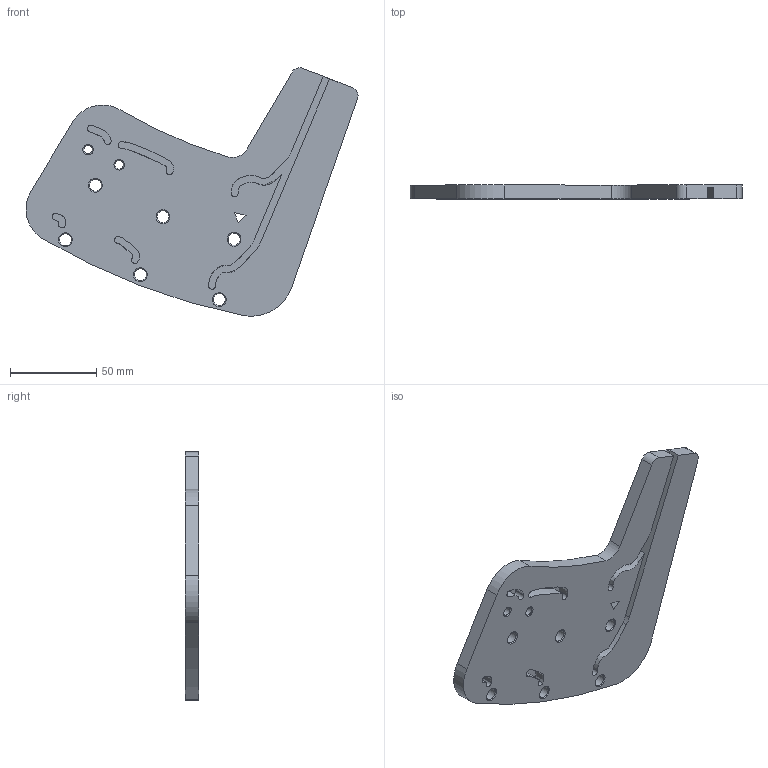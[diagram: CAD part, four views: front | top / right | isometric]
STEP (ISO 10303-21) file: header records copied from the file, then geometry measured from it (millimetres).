
FILE_DESCRIPTION(/* description */ (''),/* implementation_level */ '2;1');
FILE_NAME(/* name */ 'GETOUT_STAVE_100.stp',/* time_stamp */ '2018-10-15T11:10:29+02:00',/* author */ (''),/* organization */ (''),/* preprocessor_version */ 'ST-DEVELOPER v16.7',/* originating_system */ 'SIEMENS PLM Software NX 12.0',/* authorisation */ '');
FILE_SCHEMA (('AP203_CONFIGURATION_CONTROLLED_3D_DESIGN_OF_MECHANICAL_PARTS_AND_ASSEMBLIES_MIM_LF { 1 0 10303 403 2 1 2}'));
Length unit declared in the file: millimetre
Products named in the file (1): turc3FB8140Bmo14
Bounding box: 192.21 x 8 x 143.81 mm (x, y, z)
Volume: 119293.5 mm3; surface area: 41474.4 mm2
Topology: 1 solids, 1 shells, 307 faces, 791 edges, 522 vertices
Faces by surface type: plane 202, extrusion 60, cylinder 29, cone 16
Full cylindrical faces by diameter (mm): 5 x2, 7 x6
Entity records: 11820 total; most frequent: CARTESIAN_POINT 5066, ORIENTED_EDGE 1534, DIRECTION 968, EDGE_CURVE 767, VERTEX_POINT 522, B_SPLINE_CURVE_WITH_KNOTS 489, EDGE_LOOP 385, VECTOR 324
